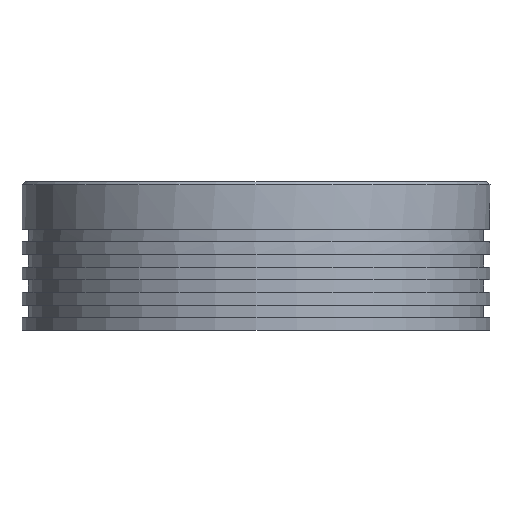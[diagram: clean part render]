
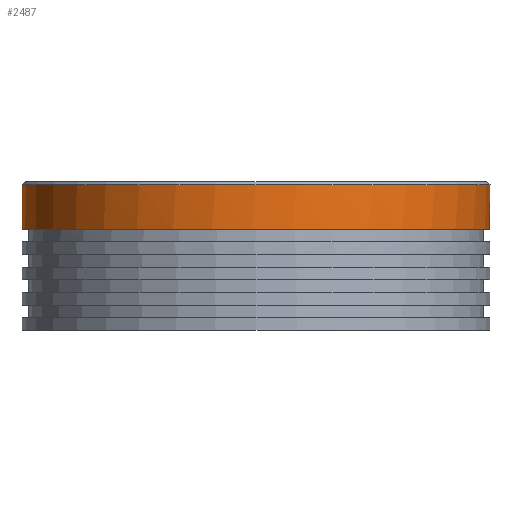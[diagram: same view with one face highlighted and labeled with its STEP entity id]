
A CAD part, front view. The second image highlights one B-rep face of the part: STEP entity #2487.
In plain terms, the highlighted cylindrical face has radius 37 mm (diameter 74 mm), a full revolution.
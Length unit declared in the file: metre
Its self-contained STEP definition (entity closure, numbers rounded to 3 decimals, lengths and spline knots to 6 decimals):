
#2487=ADVANCED_FACE('0:787',(#6134,#6135),#6136,.T.);
#6134=FACE_OUTER_BOUND('',#14251,.T.);
#6135=FACE_OUTER_BOUND('',#14252,.T.);
#6136=CYLINDRICAL_SURFACE('',#14253,0.037);
#14251=EDGE_LOOP('',(#20479,#20480));
#14252=EDGE_LOOP('',(#20481));
#14253=AXIS2_PLACEMENT_3D('',#20482,#20483,#20484);
#20479=ORIENTED_EDGE('',*,*,#22592,.F.);
#20480=ORIENTED_EDGE('',*,*,#23802,.F.);
#20481=ORIENTED_EDGE('',*,*,#23833,.T.);
#20482=CARTESIAN_POINT('',(-0.035914,0.089262,0.015162));
#20483=DIRECTION('',(0.,0.,-1.0));
#20484=DIRECTION('',(-1.0,0.,0.));
#22592=EDGE_CURVE('364:91619',#24049,#24051,#24052,.T.);
#23802=EDGE_CURVE('4:38555',#24051,#24049,#25870,.T.);
#23833=EDGE_CURVE('0:856',#25917,#25917,#25918,.T.);
#24049=VERTEX_POINT('',#26150);
#24051=VERTEX_POINT('',#26153);
#24052=B_SPLINE_CURVE_WITH_KNOTS('',3,(#26154,#26155,#26156,#26157,#26158,#26159,#26160,#26161,#26162,#26163,#26164,#26165,#26166,#26167,#26168,#26169),.UNSPECIFIED.,.F.,.F.,(4,2,2,2,2,2,2,4),(0.,0.000636,0.001272,0.001909,0.002545,0.003181,0.003817,0.00509),.UNSPECIFIED.);
#25870=CIRCLE('',#34617,0.037);
#25917=VERTEX_POINT('',#34664);
#25918=CIRCLE('',#34665,0.037);
#26150=CARTESIAN_POINT('',(-0.037799,0.126214,0.028166));
#26153=CARTESIAN_POINT('',(-0.034029,0.126214,0.028166));
#26154=CARTESIAN_POINT('',(-0.037799,0.126214,0.028166));
#26155=CARTESIAN_POINT('',(-0.037744,0.126217,0.028374));
#26156=CARTESIAN_POINT('',(-0.037657,0.126221,0.028567));
#26157=CARTESIAN_POINT('',(-0.037419,0.126232,0.028925));
#26158=CARTESIAN_POINT('',(-0.037274,0.126237,0.02908));
#26159=CARTESIAN_POINT('',(-0.036934,0.126248,0.029342));
#26160=CARTESIAN_POINT('',(-0.036746,0.126253,0.029443));
#26161=CARTESIAN_POINT('',(-0.03634,0.12626,0.029581));
#26162=CARTESIAN_POINT('',(-0.036129,0.126262,0.029616));
#26163=CARTESIAN_POINT('',(-0.035702,0.126262,0.029616));
#26164=CARTESIAN_POINT('',(-0.03549,0.12626,0.029581));
#26165=CARTESIAN_POINT('',(-0.035085,0.126253,0.029444));
#26166=CARTESIAN_POINT('',(-0.034896,0.126248,0.029343));
#26167=CARTESIAN_POINT('',(-0.034388,0.126232,0.028953));
#26168=CARTESIAN_POINT('',(-0.03414,0.12622,0.028582));
#26169=CARTESIAN_POINT('',(-0.034029,0.126214,0.028166));
#34617=AXIS2_PLACEMENT_3D('',#36354,#36355,#36356);
#34664=CARTESIAN_POINT('',(-0.072914,0.089262,0.035166));
#34665=AXIS2_PLACEMENT_3D('',#36408,#36409,#36410);
#36354=CARTESIAN_POINT('',(-0.035914,0.089262,0.028166));
#36355=DIRECTION('',(0.,0.,-1.0));
#36356=DIRECTION('',(-1.0,0.,0.));
#36408=CARTESIAN_POINT('',(-0.035914,0.089262,0.035166));
#36409=DIRECTION('',(0.,0.,-1.0));
#36410=DIRECTION('',(-1.0,0.,0.));
